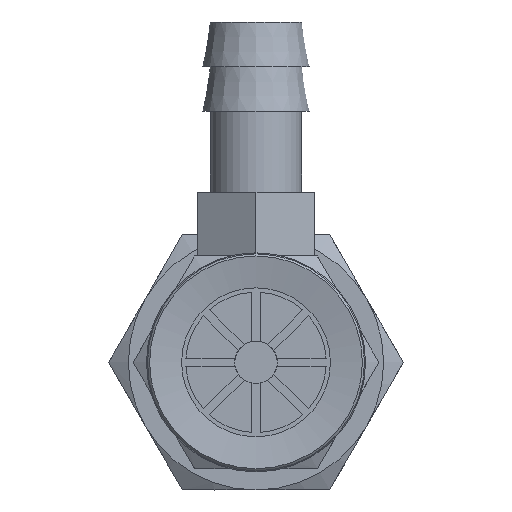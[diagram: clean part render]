
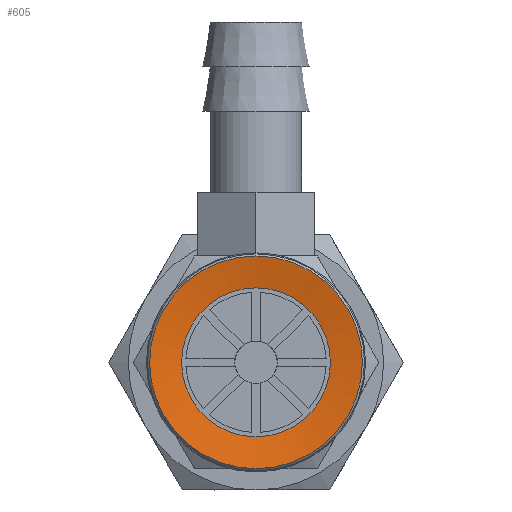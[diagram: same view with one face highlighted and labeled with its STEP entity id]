
A CAD part, front view. The second image highlights one B-rep face of the part: STEP entity #605.
In plain terms, the highlighted conical face has half-angle 80 degrees and reference radius 5 mm.
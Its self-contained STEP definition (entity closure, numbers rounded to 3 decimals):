
#605=ADVANCED_FACE('',(#979,#980),#981,.F.);
#979=FACE_BOUND('',#1366,.T.);
#980=FACE_OUTER_BOUND('',#1367,.T.);
#981=CONICAL_SURFACE('',#1368,5.0,1.396);
#1366=EDGE_LOOP('',(#2393));
#1367=EDGE_LOOP('',(#2394));
#1368=AXIS2_PLACEMENT_3D('',#2395,#2396,#2397);
#2393=ORIENTED_EDGE('',*,*,#2674,.T.);
#2394=ORIENTED_EDGE('',*,*,#2711,.F.);
#2395=CARTESIAN_POINT('',(0.0,0.,0.));
#2396=DIRECTION('',(0.0,0.,-1.0));
#2397=DIRECTION('',(0.0,1.0,0.));
#2674=EDGE_CURVE('',#3125,#3125,#3126,.T.);
#2711=EDGE_CURVE('',#3195,#3195,#3196,.T.);
#3125=VERTEX_POINT('',#4063);
#3126=CIRCLE('',#4064,3.5);
#3195=VERTEX_POINT('',#4150);
#3196=CIRCLE('',#4151,5.0);
#4063=CARTESIAN_POINT('',(0.0,-3.5,0.264));
#4064=AXIS2_PLACEMENT_3D('',#4589,#4590,#4591);
#4150=CARTESIAN_POINT('',(0.0,-5.0,0.));
#4151=AXIS2_PLACEMENT_3D('',#4666,#4667,#4668);
#4589=CARTESIAN_POINT('',(0.0,0.,0.264));
#4590=DIRECTION('',(0.0,0.,1.0));
#4591=DIRECTION('',(0.0,-1.0,0.));
#4666=CARTESIAN_POINT('',(0.0,0.,0.));
#4667=DIRECTION('',(0.0,0.,1.0));
#4668=DIRECTION('',(0.0,-1.0,0.));
